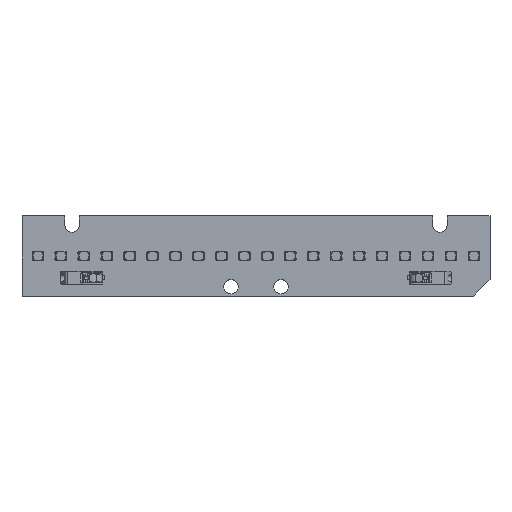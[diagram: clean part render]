
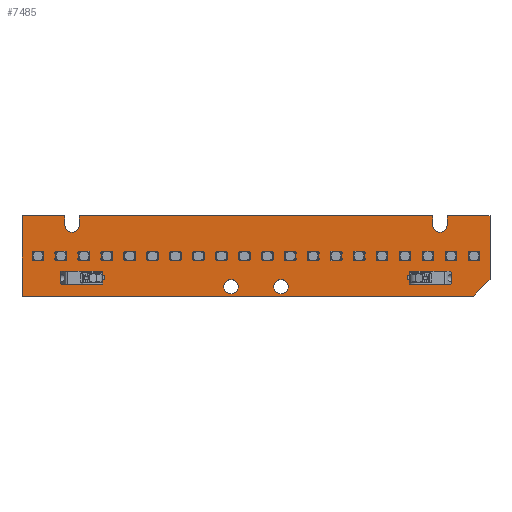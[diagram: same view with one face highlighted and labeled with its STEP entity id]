
A CAD part, top view. The second image highlights one B-rep face of the part: STEP entity #7485.
In plain terms, the highlighted planar face has unit normal (0, 0, 1).
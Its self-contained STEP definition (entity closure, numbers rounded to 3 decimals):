
#56 = VERTEX_POINT ( 'NONE', #46163 ) ;
#94 = LINE ( 'NONE', #28253, #9626 ) ;
#206 = VERTEX_POINT ( 'NONE', #25739 ) ;
#341 = CARTESIAN_POINT ( 'NONE',  ( 98.83, 93.402, 108.176 ) ) ;
#663 = AXIS2_PLACEMENT_3D ( 'NONE', #10353, #35400, #13916 ) ;
#1029 = DIRECTION ( 'NONE',  ( 0., -1., 0. ) ) ;
#1181 = ORIENTED_EDGE ( 'NONE', *, *, #28389, .F. ) ;
#1364 = PLANE ( 'NONE',  #9152 ) ;
#1459 = EDGE_CURVE ( 'NONE', #5078, #12169, #41758, .T. ) ;
#1518 = FACE_OUTER_BOUND ( 'NONE', #41541, .T. ) ;
#1725 = VECTOR ( 'NONE', #38426, 1000. ) ;
#2486 = DIRECTION ( 'NONE',  ( 0.707, 0.707, 0. ) ) ;
#2747 = CARTESIAN_POINT ( 'NONE',  ( 94.53, 105.533, 108.176 ) ) ;
#2810 = VECTOR ( 'NONE', #4688, 1000. ) ;
#3959 = EDGE_CURVE ( 'NONE', #33807, #22209, #38755, .T. ) ;
#4249 = AXIS2_PLACEMENT_3D ( 'NONE', #8040, #33049, #11604 ) ;
#4405 = VECTOR ( 'NONE', #10154, 1000. ) ;
#4656 = CARTESIAN_POINT ( 'NONE',  ( -28.32, 93.402, 108.176 ) ) ;
#4669 = ORIENTED_EDGE ( 'NONE', *, *, #9574, .F. ) ;
#4688 = DIRECTION ( 'NONE',  ( 0., 1., 0. ) ) ;
#4809 = DIRECTION ( 'NONE',  ( 0., 1., 0. ) ) ;
#5078 = VERTEX_POINT ( 'NONE', #38418 ) ;
#5270 = VERTEX_POINT ( 'NONE', #14575 ) ;
#5393 = VERTEX_POINT ( 'NONE', #26163 ) ;
#5546 = VECTOR ( 'NONE', #44617, 1000. ) ;
#5811 = CARTESIAN_POINT ( 'NONE',  ( 111.68, 74.402, 108.176 ) ) ;
#5947 = EDGE_CURVE ( 'NONE', #30047, #10915, #42514, .T. ) ;
#6580 = CARTESIAN_POINT ( 'NONE',  ( -28.32, 93.402, 108.176 ) ) ;
#6841 = ORIENTED_EDGE ( 'NONE', *, *, #1459, .F. ) ;
#7485 = ADVANCED_FACE ( 'NONE', ( #30059, #22800, #1518 ), #1364, .F. ) ;
#7873 = CARTESIAN_POINT ( 'NONE',  ( -28.32, 69.402, 108.176 ) ) ;
#7945 = EDGE_CURVE ( 'NONE', #40558, #40949, #26118, .T. ) ;
#8040 = CARTESIAN_POINT ( 'NONE',  ( 49.18, 72.202, 108.176 ) ) ;
#8187 = DIRECTION ( 'NONE',  ( 0., 0., 1. ) ) ;
#8562 = DIRECTION ( 'NONE',  ( -1., 0., 0. ) ) ;
#8805 = DIRECTION ( 'NONE',  ( 0., 0., 1. ) ) ;
#8878 = ORIENTED_EDGE ( 'NONE', *, *, #35855, .T. ) ;
#8962 = AXIS2_PLACEMENT_3D ( 'NONE', #33990, #12529, #37599 ) ;
#9018 = ORIENTED_EDGE ( 'NONE', *, *, #9366, .F. ) ;
#9152 = AXIS2_PLACEMENT_3D ( 'NONE', #44249, #29985, #8562 ) ;
#9208 = CARTESIAN_POINT ( 'NONE',  ( -28.32, 69.402, 108.176 ) ) ;
#9285 = VECTOR ( 'NONE', #4809, 1000. ) ;
#9366 = EDGE_CURVE ( 'NONE', #12169, #38560, #28781, .T. ) ;
#9574 = EDGE_CURVE ( 'NONE', #56, #5393, #11215, .T. ) ;
#9626 = VECTOR ( 'NONE', #31854, 1000. ) ;
#9659 = ORIENTED_EDGE ( 'NONE', *, *, #26197, .T. ) ;
#9966 = VERTEX_POINT ( 'NONE', #39441 ) ;
#10154 = DIRECTION ( 'NONE',  ( -1., 0., 0. ) ) ;
#10159 = EDGE_CURVE ( 'NONE', #22209, #32739, #31350, .T. ) ;
#10353 = CARTESIAN_POINT ( 'NONE',  ( 96.68, 90.602, 108.176 ) ) ;
#10407 = ORIENTED_EDGE ( 'NONE', *, *, #14280, .F. ) ;
#10672 = LINE ( 'NONE', #33124, #19067 ) ;
#10915 = VERTEX_POINT ( 'NONE', #341 ) ;
#11215 = LINE ( 'NONE', #2747, #1725 ) ;
#11604 = DIRECTION ( 'NONE',  ( 1., 0., 0. ) ) ;
#11841 = CARTESIAN_POINT ( 'NONE',  ( 111.68, 69.402, 108.176 ) ) ;
#12169 = VERTEX_POINT ( 'NONE', #36236 ) ;
#12529 = DIRECTION ( 'NONE',  ( 0., 0., 1. ) ) ;
#13091 = CARTESIAN_POINT ( 'NONE',  ( 111.68, 74.402, 108.176 ) ) ;
#13916 = DIRECTION ( 'NONE',  ( 1., 0., 0. ) ) ;
#14026 = CARTESIAN_POINT ( 'NONE',  ( 98.83, 90.602, 108.176 ) ) ;
#14127 = CIRCLE ( 'NONE', #8962, 2.15 ) ;
#14280 = EDGE_CURVE ( 'NONE', #206, #5270, #32788, .T. ) ;
#14313 = CARTESIAN_POINT ( 'NONE',  ( -28.32, 93.402, 108.176 ) ) ;
#14575 = CARTESIAN_POINT ( 'NONE',  ( 51.33, 72.202, 108.176 ) ) ;
#15438 = DIRECTION ( 'NONE',  ( -1., 0., 0. ) ) ;
#15816 = ORIENTED_EDGE ( 'NONE', *, *, #20643, .F. ) ;
#16733 = ORIENTED_EDGE ( 'NONE', *, *, #17352, .T. ) ;
#17314 = ORIENTED_EDGE ( 'NONE', *, *, #3959, .T. ) ;
#17352 = EDGE_CURVE ( 'NONE', #43336, #33807, #35950, .T. ) ;
#19067 = VECTOR ( 'NONE', #1029, 1000. ) ;
#19308 = CARTESIAN_POINT ( 'NONE',  ( 34.18, 72.202, 108.176 ) ) ;
#19321 = CARTESIAN_POINT ( 'NONE',  ( 36.33, 72.202, 108.176 ) ) ;
#20254 = AXIS2_PLACEMENT_3D ( 'NONE', #29589, #8187, #33221 ) ;
#20643 = EDGE_CURVE ( 'NONE', #9966, #5078, #10672, .T. ) ;
#20890 = ORIENTED_EDGE ( 'NONE', *, *, #27717, .T. ) ;
#22209 = VERTEX_POINT ( 'NONE', #5811 ) ;
#22349 = EDGE_CURVE ( 'NONE', #32739, #10915, #32937, .T. ) ;
#22718 = EDGE_LOOP ( 'NONE', ( #33391, #37361 ) ) ;
#22800 = FACE_BOUND ( 'NONE', #22718, .T. ) ;
#22808 = CARTESIAN_POINT ( 'NONE',  ( 111.68, 93.402, 108.176 ) ) ;
#22904 = DIRECTION ( 'NONE',  ( 1., 0., 0. ) ) ;
#23485 = CARTESIAN_POINT ( 'NONE',  ( 106.68, 69.402, 108.176 ) ) ;
#23613 = ORIENTED_EDGE ( 'NONE', *, *, #5947, .F. ) ;
#23899 = EDGE_CURVE ( 'NONE', #5270, #206, #14127, .T. ) ;
#24389 = ORIENTED_EDGE ( 'NONE', *, *, #23899, .F. ) ;
#25297 = VECTOR ( 'NONE', #36521, 1000. ) ;
#25739 = CARTESIAN_POINT ( 'NONE',  ( 47.03, 72.202, 108.176 ) ) ;
#26118 = CIRCLE ( 'NONE', #20254, 2.15 ) ;
#26163 = CARTESIAN_POINT ( 'NONE',  ( 94.53, 90.602, 108.176 ) ) ;
#26197 = EDGE_CURVE ( 'NONE', #9966, #34554, #32970, .T. ) ;
#26340 = ORIENTED_EDGE ( 'NONE', *, *, #22349, .T. ) ;
#26443 = CIRCLE ( 'NONE', #30477, 2.15 ) ;
#27717 = EDGE_CURVE ( 'NONE', #34554, #43336, #94, .T. ) ;
#28253 = CARTESIAN_POINT ( 'NONE',  ( -28.32, 69.402, 108.176 ) ) ;
#28389 = EDGE_CURVE ( 'NONE', #5393, #30047, #34781, .T. ) ;
#28781 = LINE ( 'NONE', #40649, #9285 ) ;
#29589 = CARTESIAN_POINT ( 'NONE',  ( 34.18, 72.202, 108.176 ) ) ;
#29772 = CARTESIAN_POINT ( 'NONE',  ( -28.32, 93.402, 108.176 ) ) ;
#29985 = DIRECTION ( 'NONE',  ( 0., 0., -1. ) ) ;
#30047 = VERTEX_POINT ( 'NONE', #14026 ) ;
#30059 = FACE_BOUND ( 'NONE', #33100, .T. ) ;
#30170 = CARTESIAN_POINT ( 'NONE',  ( 98.83, 105.533, 108.176 ) ) ;
#30246 = CARTESIAN_POINT ( 'NONE',  ( -13.32, 90.602, 108.176 ) ) ;
#30477 = AXIS2_PLACEMENT_3D ( 'NONE', #19308, #44371, #22904 ) ;
#31350 = LINE ( 'NONE', #11841, #2810 ) ;
#31854 = DIRECTION ( 'NONE',  ( 0., -1., 0. ) ) ;
#32739 = VERTEX_POINT ( 'NONE', #22808 ) ;
#32788 = CIRCLE ( 'NONE', #4249, 2.15 ) ;
#32937 = LINE ( 'NONE', #6580, #4405 ) ;
#32970 = LINE ( 'NONE', #29772, #43644 ) ;
#33014 = ORIENTED_EDGE ( 'NONE', *, *, #10159, .T. ) ;
#33049 = DIRECTION ( 'NONE',  ( 0., 0., 1. ) ) ;
#33100 = EDGE_LOOP ( 'NONE', ( #24389, #10407 ) ) ;
#33124 = CARTESIAN_POINT ( 'NONE',  ( -15.47, 104.385, 108.176 ) ) ;
#33221 = DIRECTION ( 'NONE',  ( 1., 0., 0. ) ) ;
#33379 = DIRECTION ( 'NONE',  ( -1., 0., 0. ) ) ;
#33391 = ORIENTED_EDGE ( 'NONE', *, *, #38573, .F. ) ;
#33807 = VERTEX_POINT ( 'NONE', #23485 ) ;
#33860 = DIRECTION ( 'NONE',  ( 1., 0., 0. ) ) ;
#33990 = CARTESIAN_POINT ( 'NONE',  ( 49.18, 72.202, 108.176 ) ) ;
#34554 = VERTEX_POINT ( 'NONE', #14313 ) ;
#34781 = CIRCLE ( 'NONE', #663, 2.15 ) ;
#35400 = DIRECTION ( 'NONE',  ( 0., 0., 1. ) ) ;
#35423 = AXIS2_PLACEMENT_3D ( 'NONE', #30246, #8805, #33860 ) ;
#35855 = EDGE_CURVE ( 'NONE', #56, #38560, #42270, .T. ) ;
#35950 = LINE ( 'NONE', #7873, #25297 ) ;
#36023 = CARTESIAN_POINT ( 'NONE',  ( 32.03, 72.202, 108.176 ) ) ;
#36236 = CARTESIAN_POINT ( 'NONE',  ( -11.17, 90.602, 108.176 ) ) ;
#36521 = DIRECTION ( 'NONE',  ( 1., 0., 0. ) ) ;
#36992 = CARTESIAN_POINT ( 'NONE',  ( -11.17, 93.402, 108.176 ) ) ;
#37361 = ORIENTED_EDGE ( 'NONE', *, *, #7945, .F. ) ;
#37599 = DIRECTION ( 'NONE',  ( 1., 0., 0. ) ) ;
#37622 = VECTOR ( 'NONE', #2486, 1000. ) ;
#38418 = CARTESIAN_POINT ( 'NONE',  ( -15.47, 90.602, 108.176 ) ) ;
#38426 = DIRECTION ( 'NONE',  ( 0., -1., 0. ) ) ;
#38560 = VERTEX_POINT ( 'NONE', #36992 ) ;
#38573 = EDGE_CURVE ( 'NONE', #40949, #40558, #26443, .T. ) ;
#38755 = LINE ( 'NONE', #13091, #37622 ) ;
#39441 = CARTESIAN_POINT ( 'NONE',  ( -15.47, 93.402, 108.176 ) ) ;
#40558 = VERTEX_POINT ( 'NONE', #36023 ) ;
#40649 = CARTESIAN_POINT ( 'NONE',  ( -11.17, 104.385, 108.176 ) ) ;
#40949 = VERTEX_POINT ( 'NONE', #19321 ) ;
#41154 = VECTOR ( 'NONE', #15438, 1000. ) ;
#41541 = EDGE_LOOP ( 'NONE', ( #16733, #17314, #33014, #26340, #23613, #1181, #4669, #8878, #9018, #6841, #15816, #9659, #20890 ) ) ;
#41758 = CIRCLE ( 'NONE', #35423, 2.15 ) ;
#42270 = LINE ( 'NONE', #4656, #41154 ) ;
#42514 = LINE ( 'NONE', #30170, #5546 ) ;
#43336 = VERTEX_POINT ( 'NONE', #9208 ) ;
#43644 = VECTOR ( 'NONE', #33379, 1000. ) ;
#44249 = CARTESIAN_POINT ( 'NONE',  ( -28.32, 69.402, 108.176 ) ) ;
#44371 = DIRECTION ( 'NONE',  ( 0., 0., 1. ) ) ;
#44617 = DIRECTION ( 'NONE',  ( 0., 1., 0. ) ) ;
#46163 = CARTESIAN_POINT ( 'NONE',  ( 94.53, 93.402, 108.176 ) ) ;
